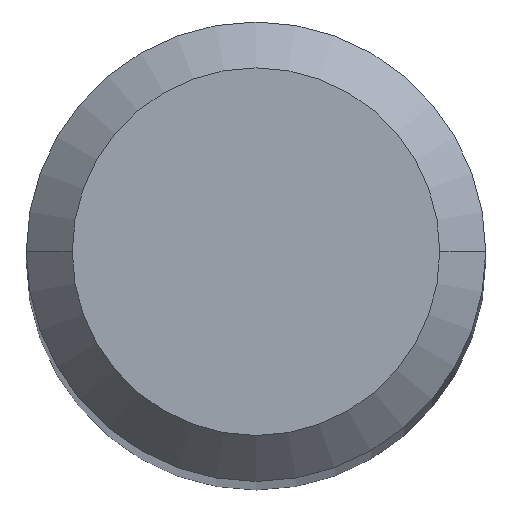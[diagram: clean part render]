
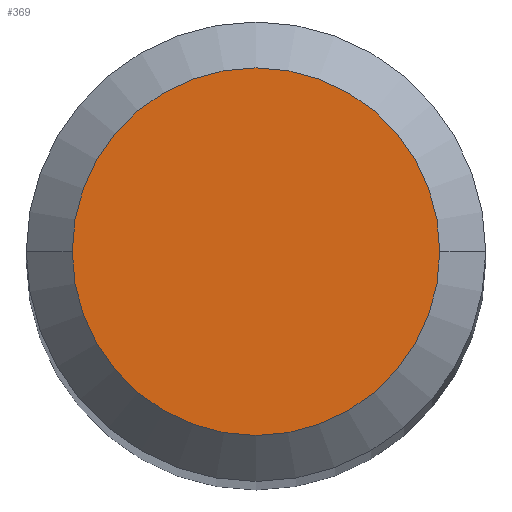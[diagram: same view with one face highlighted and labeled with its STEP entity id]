
A CAD part, top view. The second image highlights one B-rep face of the part: STEP entity #369.
In plain terms, the highlighted planar face has unit normal (0, 0, 1).
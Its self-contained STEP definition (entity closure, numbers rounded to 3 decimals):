
#21 = DIRECTION ( 'NONE',  ( 1., 0., 0. ) ) ;
#44 = CIRCLE ( 'NONE', #364, 1.2 ) ;
#63 = AXIS2_PLACEMENT_3D ( 'NONE', #441, #102, #526 ) ;
#67 = CARTESIAN_POINT ( 'NONE',  ( 0., 0., 0. ) ) ;
#81 = CIRCLE ( 'NONE', #63, 1.2 ) ;
#102 = DIRECTION ( 'NONE',  ( 0., 0., -1. ) ) ;
#152 = DIRECTION ( 'NONE',  ( 0., 0., 1. ) ) ;
#183 = ORIENTED_EDGE ( 'NONE', *, *, #503, .F. ) ;
#184 = CARTESIAN_POINT ( 'NONE',  ( 1.2, 0., 0. ) ) ;
#196 = ORIENTED_EDGE ( 'NONE', *, *, #405, .F. ) ;
#227 = CARTESIAN_POINT ( 'NONE',  ( 0., 1.2, 0. ) ) ;
#233 = VERTEX_POINT ( 'NONE', #243 ) ;
#243 = CARTESIAN_POINT ( 'NONE',  ( -1.2, 0., 0. ) ) ;
#267 = FACE_OUTER_BOUND ( 'NONE', #383, .T. ) ;
#364 = AXIS2_PLACEMENT_3D ( 'NONE', #67, #491, #443 ) ;
#369 = ADVANCED_FACE ( 'NONE', ( #267 ), #529, .T. ) ;
#383 = EDGE_LOOP ( 'NONE', ( #196, #183 ) ) ;
#405 = EDGE_CURVE ( 'NONE', #233, #432, #81, .T. ) ;
#410 = AXIS2_PLACEMENT_3D ( 'NONE', #227, #152, #21 ) ;
#432 = VERTEX_POINT ( 'NONE', #184 ) ;
#441 = CARTESIAN_POINT ( 'NONE',  ( 0., 0., 0. ) ) ;
#443 = DIRECTION ( 'NONE',  ( -1., 0., 0. ) ) ;
#491 = DIRECTION ( 'NONE',  ( 0., 0., -1. ) ) ;
#503 = EDGE_CURVE ( 'NONE', #432, #233, #44, .T. ) ;
#526 = DIRECTION ( 'NONE',  ( -1., 0., 0. ) ) ;
#529 = PLANE ( 'NONE',  #410 ) ;
